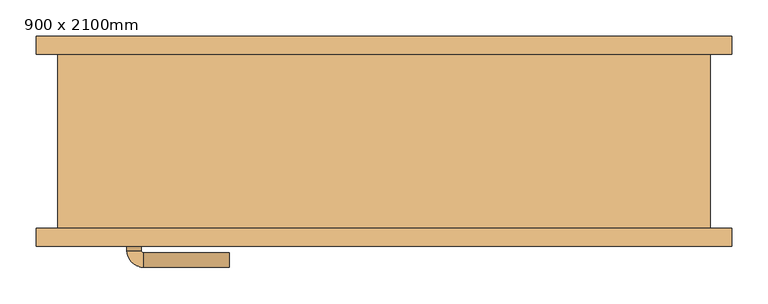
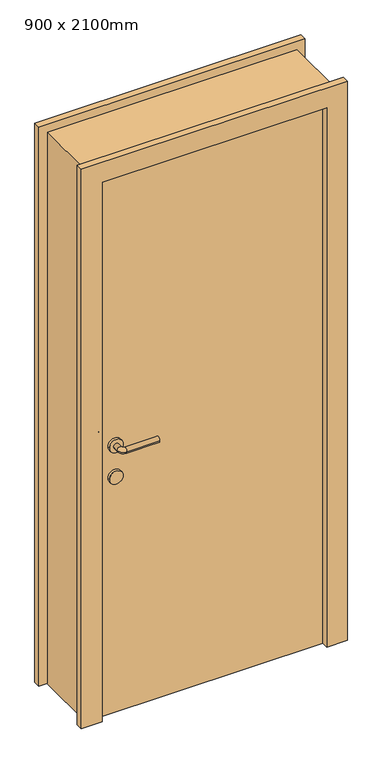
"""IFC4 building model written with IfcOpenShell, lengths in millimetres: door geometry, 单嵌板木门 1 : 900 x 2100mm."""

from ifc_helpers import new_model, si_unit, point, frame, frame_2d, origin, origin_with_axes, place, context, project, spatial, polyline, circle_curve, ellipse_curve, trimmed, segment, composite_curve, outline, extrude, source, transform, mapped, element, save
from ifc_brep_helpers import plane_surface, cylinder_surface, revolved_surface, advanced_brep


def door_900_x_2100mm_be2d5bec(model_context):
    return source(origin(), model_context, "Body", "SolidModel", [
        extrude(outline(composite_curve([segment(trimmed(circle_curve(frame_2d((900.0, -345.0)), 25.0), [point((900.0, -320.0))], [point((900.0, -370.0))], False, "CARTESIAN"), True, "CONTINUOUS"), segment(trimmed(circle_curve(frame_2d((900.0, -345.0)), 25.0), [point((900.0, -370.0))], [point((900.0, -320.0))], False, "CARTESIAN"), True, "CONTINUOUS")], self_intersect=False)), frame((0.0, -70.0, 0.0), z_axis=(0.0, 1.0, 0.0), x_axis=(0.0, 0.0, 1.0)), (0.0, 0.0, 1.0), 10.0),
        extrude(outline(composite_curve([segment(trimmed(circle_curve(frame_2d((900.0, -345.0)), 25.0), [point((900.0, -320.0))], [point((900.0, -370.0))], False, "CARTESIAN"), True, "CONTINUOUS"), segment(trimmed(circle_curve(frame_2d((900.0, -345.0)), 25.0), [point((900.0, -370.0))], [point((900.0, -320.0))], False, "CARTESIAN"), True, "CONTINUOUS")], self_intersect=False)), frame((0.0, -130.0, 0.0), z_axis=(0.0, 1.0, 0.0), x_axis=(0.0, 0.0, 1.0)), (0.0, 0.0, 1.0), 10.0),
        advanced_brep(
        [(-355.0, -60.0, 1020.0), (-335.0, -60.0, 1020.0), (-355.0, -39.386645, 1020.0), (-335.0, -39.386645, 1020.0), (-213.419036, -16.419036, 1020.0), (-213.419036, -36.419036, 1020.0), (-332.0323911, -36.419036, 1020.0), (-332.0323911, -16.419036, 1020.0)],
        [
            (0, 1, circle_curve(frame((-345.0, -60.0, 1020.0), z_axis=(0.0, -1.0, 0.0), x_axis=(1.0, 0.0, 0.0)), 10.0)),
            (1, 0, circle_curve(frame((-345.0, -60.0, 1020.0), z_axis=(0.0, -1.0, 0.0), x_axis=(1.0, 0.0, 0.0)), 10.0)),
            (0, 2),
            (2, 3, circle_curve(frame((-345.0, -39.386645, 1020.0), z_axis=(0.0, -1.0, 0.0), x_axis=(1.0, 0.0, 0.0)), 10.0)),
            (3, 1),
            (3, 2, circle_curve(frame((-345.0, -39.386645, 1020.0), z_axis=(0.0, -1.0, 0.0), x_axis=(1.0, 0.0, 0.0)), 10.0)),
            (4, 5, circle_curve(frame((-213.419036, -26.419036, 1020.0), z_axis=(1.0, 0.0, 0.0), x_axis=(0.0, -1.0, 0.0)), 10.0)),
            (5, 4, circle_curve(frame((-213.419036, -26.419036, 1020.0), z_axis=(1.0, 0.0, 0.0), x_axis=(0.0, -1.0, 0.0)), 10.0)),
            (6, 7, circle_curve(frame((-332.0323911, -26.419036, 1020.0), z_axis=(-1.0, 0.0, 0.0), x_axis=(0.0, -1.0, 0.0)), 10.0)),
            (7, 2, circle_curve(frame((-332.0323911, -39.386645, 1020.0), z_axis=(0.0, 0.0, 1.0), x_axis=(-1.0, 0.0, 0.0)), 22.9676089)),
            (3, 6, circle_curve(frame((-332.0323911, -39.386645, 1020.0), z_axis=(0.0, 0.0, -1.0), x_axis=(-1.0, 0.0, 0.0)), 2.9676089)),
            (7, 6, circle_curve(frame((-332.0323911, -26.419036, 1020.0), z_axis=(-1.0, 0.0, 0.0), x_axis=(0.0, -1.0, 0.0)), 10.0)),
            (6, 5),
            (4, 7),
        ],
        [
            plane_surface(frame((-345.0, -60.0, 900.0), z_axis=(0.0, -1.0, 0.0), x_axis=(0.0, 0.0, 1.0))),
            cylinder_surface(frame((-345.0, -60.0, 1020.0), z_axis=(0.0, -1.0, 0.0), x_axis=(1.0, 0.0, 0.0)), 10.0),
            plane_surface(frame((-213.419036, -26.419036, 900.0), z_axis=(1.0, 0.0, 0.0), x_axis=(0.0, 0.0, 1.0))),
            revolved_surface(trimmed(ellipse_curve(frame((-345.0, -39.386645, 1020.0), z_axis=(0.0, 1.0, 0.0), x_axis=(1.0, 0.0, 0.0)), 10.0, 10.0), [point((-355.0, -39.386645, 1020.0))], [point((-335.0, -39.386645, 1020.0))], True, "CARTESIAN"), (-332.0323911, -39.386645, 900.0), (0.0, 0.0, 1.0)),
            revolved_surface(trimmed(ellipse_curve(frame((-345.0, -39.386645, 1020.0), z_axis=(0.0, 1.0, 0.0), x_axis=(1.0, 0.0, 0.0)), 10.0, 10.0), [point((-335.0, -39.386645, 1020.0))], [point((-355.0, -39.386645, 1020.0))], True, "CARTESIAN"), (-332.0323911, -39.386645, 900.0), (0.0, 0.0, 1.0)),
            cylinder_surface(frame((-332.0323911, -26.419036, 1020.0), z_axis=(-1.0, 0.0, 0.0), x_axis=(0.0, -1.0, 0.0)), 10.0),
        ],
        [
            (0, [[1, 2]]),
            (1, [[3, 4, 5, -1]]),
            (1, [[-5, 6, -3, -2]]),
            (2, [[7, 8]]),
            (3, [[9, 10, -6, 11]]),
            (4, [[12, -11, -4, -10]]),
            (5, [[13, -7, 14, -9]]),
            (5, [[-14, -8, -13, -12]]),
        ],
    ),
        extrude(outline(composite_curve([segment(trimmed(circle_curve(frame_2d((1020.0, -345.0)), 25.0), [point((1020.0, -320.0))], [point((1020.0, -370.0))], False, "CARTESIAN"), True, "CONTINUOUS"), segment(trimmed(circle_curve(frame_2d((1020.0, -345.0)), 25.0), [point((1020.0, -370.0))], [point((1020.0, -320.0))], False, "CARTESIAN"), True, "CONTINUOUS")], self_intersect=False)), frame((0.0, -70.0, 0.0), z_axis=(0.0, 1.0, 0.0), x_axis=(0.0, 0.0, 1.0)), (0.0, 0.0, 1.0), 10.0),
        advanced_brep(
        [(-335.0, -130.0, 1020.0), (-355.0, -130.0, 1020.0), (-355.0, -150.6133551, 1020.0), (-335.0, -150.6133551, 1020.0), (-213.419036, -153.580964, 1020.0), (-213.419036, -173.580964, 1020.0), (-332.0323911, -173.580964, 1020.0), (-332.0323911, -153.580964, 1020.0)],
        [
            (0, 1, circle_curve(frame((-345.0, -130.0, 1020.0), z_axis=(0.0, 1.0, 0.0), x_axis=(-1.0, 0.0, 0.0)), 10.0)),
            (1, 0, circle_curve(frame((-345.0, -130.0, 1020.0), z_axis=(0.0, 1.0, 0.0), x_axis=(-1.0, 0.0, 0.0)), 10.0)),
            (1, 2),
            (2, 3, circle_curve(frame((-345.0, -150.6133551, 1020.0), z_axis=(0.0, 1.0, 0.0), x_axis=(-1.0, 0.0, 0.0)), 10.0)),
            (3, 0),
            (3, 2, circle_curve(frame((-345.0, -150.6133551, 1020.0), z_axis=(0.0, 1.0, 0.0), x_axis=(-1.0, 0.0, 0.0)), 10.0)),
            (4, 5, circle_curve(frame((-213.419036, -163.580964, 1020.0), z_axis=(1.0, 0.0, 0.0), x_axis=(0.0, -1.0, 0.0)), 10.0)),
            (5, 4, circle_curve(frame((-213.419036, -163.580964, 1020.0), z_axis=(1.0, 0.0, 0.0), x_axis=(0.0, -1.0, 0.0)), 10.0)),
            (6, 7, circle_curve(frame((-332.0323911, -163.580964, 1020.0), z_axis=(-1.0, 0.0, 0.0), x_axis=(0.0, -1.0, 0.0)), 10.0)),
            (7, 3, circle_curve(frame((-332.0323911, -150.6133551, 1020.0), z_axis=(0.0, 0.0, -1.0), x_axis=(-1.0, 0.0, 0.0)), 2.9676089)),
            (2, 6, circle_curve(frame((-332.0323911, -150.6133551, 1020.0), z_axis=(0.0, 0.0, 1.0), x_axis=(-1.0, 0.0, 0.0)), 22.9676089)),
            (7, 6, circle_curve(frame((-332.0323911, -163.580964, 1020.0), z_axis=(-1.0, 0.0, 0.0), x_axis=(0.0, -1.0, 0.0)), 10.0)),
            (6, 5),
            (4, 7),
        ],
        [
            plane_surface(frame((-345.0, -130.0, 900.0), z_axis=(0.0, 1.0, 0.0), x_axis=(0.0, 0.0, 1.0))),
            cylinder_surface(frame((-345.0, -130.0, 1020.0), z_axis=(0.0, 1.0, 0.0), x_axis=(-1.0, 0.0, 0.0)), 10.0),
            plane_surface(frame((-213.419036, -163.580964, 900.0), z_axis=(1.0, 0.0, 0.0), x_axis=(0.0, 0.0, 1.0))),
            revolved_surface(trimmed(ellipse_curve(frame((-345.0, -150.6133551, 1020.0), z_axis=(0.0, -1.0, 0.0), x_axis=(-1.0, 0.0, 0.0)), 10.0, 10.0), [point((-335.0, -150.6133551, 1020.0))], [point((-355.0, -150.6133551, 1020.0))], True, "CARTESIAN"), (-332.0323911, -150.6133551, 900.0), (0.0, 0.0, -1.0)),
            revolved_surface(trimmed(ellipse_curve(frame((-345.0, -150.6133551, 1020.0), z_axis=(0.0, -1.0, 0.0), x_axis=(-1.0, 0.0, 0.0)), 10.0, 10.0), [point((-355.0, -150.6133551, 1020.0))], [point((-335.0, -150.6133551, 1020.0))], True, "CARTESIAN"), (-332.0323911, -150.6133551, 900.0), (0.0, 0.0, -1.0)),
            cylinder_surface(frame((-332.0323911, -163.580964, 1020.0), z_axis=(-1.0, 0.0, 0.0), x_axis=(0.0, -1.0, 0.0)), 10.0),
        ],
        [
            (0, [[1, 2]]),
            (1, [[3, 4, 5, -2]]),
            (1, [[-5, 6, -3, -1]]),
            (2, [[7, 8]]),
            (3, [[9, 10, -4, 11]]),
            (4, [[12, -11, -6, -10]]),
            (5, [[13, -7, 14, -9]]),
            (5, [[-14, -8, -13, -12]]),
        ],
    ),
        extrude(outline(composite_curve([segment(trimmed(circle_curve(frame_2d((1020.0, -345.0)), 25.0), [point((1020.0, -320.0))], [point((1020.0, -370.0))], False, "CARTESIAN"), True, "CONTINUOUS"), segment(trimmed(circle_curve(frame_2d((1020.0, -345.0)), 25.0), [point((1020.0, -370.0))], [point((1020.0, -320.0))], False, "CARTESIAN"), True, "CONTINUOUS")], self_intersect=False)), frame((0.0, -130.0, 0.0), z_axis=(0.0, 1.0, 0.0), x_axis=(0.0, 0.0, 1.0)), (0.0, 0.0, 1.0), 10.0),
        extrude(outline(polyline([(0.0, 480.0), (2130.0, 480.0), (2130.0, -480.0), (0.0, -480.0), (0.0, -405.0), (2055.0, -405.0), (2055.0, 405.0), (0.0, 405.0), (0.0, 480.0)])), frame((0.0, -145.0, 0.0), z_axis=(0.0, 1.0, 0.0), x_axis=(0.0, 0.0, 1.0)), (0.0, 0.0, 1.0), 25.0),
        extrude(outline(polyline([(2130.0, 480.0), (2130.0, -480.0), (0.0, -480.0), (0.0, -405.0), (2055.0, -405.0), (2055.0, 405.0), (0.0, 405.0), (0.0, 480.0), (2130.0, 480.0)])), frame((0.0, 120.0, 0.0), z_axis=(0.0, 1.0, 0.0), x_axis=(0.0, 0.0, 1.0)), (0.0, 0.0, 1.0), 25.0),
        extrude(outline(polyline([(405.0, -70.0), (405.0, -120.0), (-405.0, -120.0), (-405.0, -70.0), (405.0, -70.0)])), origin_with_axes(), (0.0, 0.0, 1.0), 2055.0),
        extrude(outline(polyline([(2100.0, -450.0), (0.0, -450.0), (0.0, -405.0), (2055.0, -405.0), (2055.0, 405.0), (0.0, 405.0), (0.0, 450.0), (2100.0, 450.0), (2100.0, -450.0)])), frame((0.0, -120.0, 0.0), z_axis=(0.0, 1.0, 0.0), x_axis=(0.0, 0.0, 1.0)), (0.0, 0.0, 1.0), 240.0),
    ])


if __name__ == "__main__":
    model = new_model("IFC4")
    model_context = context("Model", 3, world=origin())
    ifc_project = project(units=[si_unit("LENGTHUNIT", "METRE", prefix="MILLI")], contexts=[model_context])
    site = spatial("IfcSite", under=ifc_project)
    building = spatial("IfcBuilding", under=site)
    placement = place(None, origin())
    door_900_x_2100mm_shape = door_900_x_2100mm_be2d5bec(model_context)
    element("IfcDoor", 1, ObjectType="单嵌板木门 1 : 900 x 2100mm", at=placement, inside=building, context=model_context, shape_type="MappedRepresentation", body=[
        mapped(door_900_x_2100mm_shape, transform((0.0, 0.0, 0.0), x_axis=(1.0, 0.0, 0.0), y_axis=(0.0, 1.0, 0.0), z_axis=(0.0, 0.0, 1.0))),
    ])
    save(model, "model.ifc")
